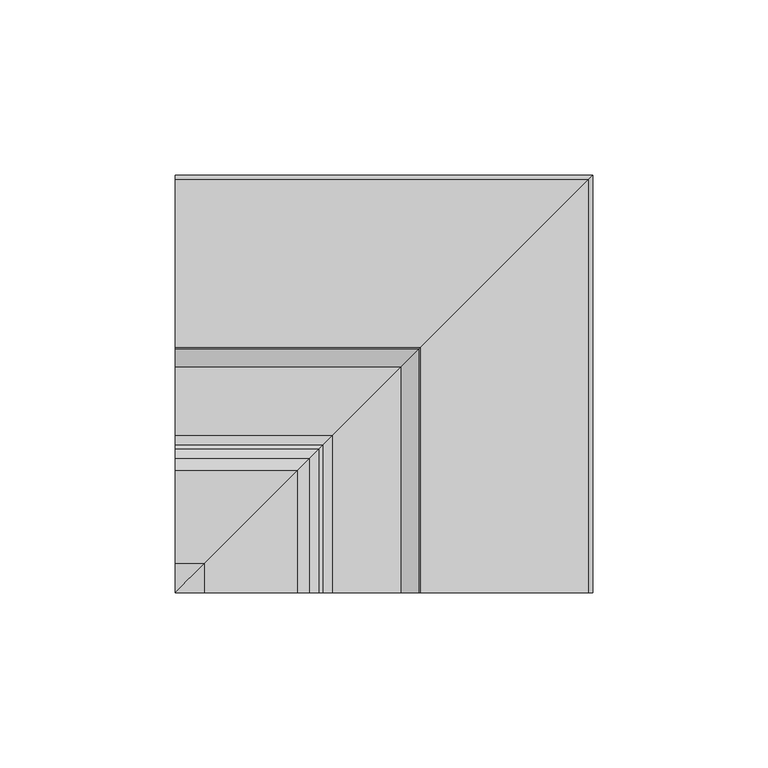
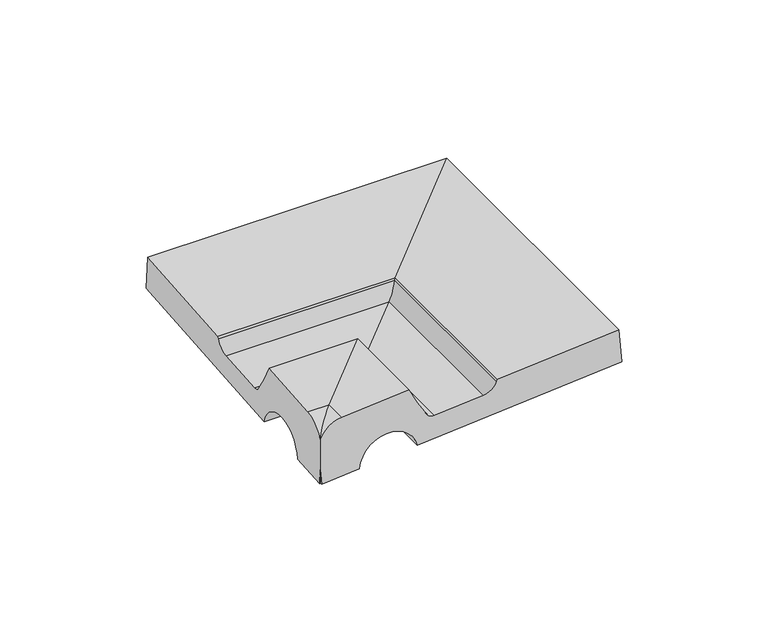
"""IFC4 building model written with IfcOpenShell, lengths in millimetres: proxy geometry, ROSA GRES_089 : Pieza 089_Aqua_Plomo_Anti-Slip."""

from ifc_helpers import new_model, si_unit, frame, origin, place, context, project, spatial, polyline, circle_curve, ellipse_curve, source, transform, mapped, element, save
from ifc_brep_helpers import plane_surface, cylinder_surface, revolved_surface, advanced_brep


def generic_models_ccc31185(model_context):
    return source(origin(), model_context, "Body", "AdvancedBrep", [
        advanced_brep(
        [(0.4959854, 0.4959854, 174.3946403), (15.4742511, 15.4742511, 175.6138015), (15.4742511, 0.0, 175.6138015), (0.4959854, 0.0, 174.3946403), (38.2820268, 38.2820268, 177.4702483), (38.2820268, 0.0, 177.4702483), (119.1037338, 119.1037338, 184.0487594), (119.1037338, 0.0, 184.0487594), (117.9849268, 117.9849268, 197.7941027), (117.9849268, 0.0, 197.7941027), (69.9836117, 69.9836117, 193.8870189), (69.9836117, 0.0, 193.8870189), (69.5852402, 69.5852402, 193.1051707), (69.5852402, 0.0, 193.1051707), (64.4101321, 64.4101321, 189.205447), (64.4101321, 0.0, 189.205447), (44.9243788, 44.9243788, 187.6193973), (44.9243788, 0.0, 187.6193973), (42.1786827, 42.1786827, 188.9557911), (42.1786827, 0.0, 188.9557911), (41.0138307, 41.0138307, 190.7196924), (41.0138307, 0.0, 190.7196924), (38.3959439, 38.3959439, 195.0159662), (38.3959439, 0.0, 195.0159662), (34.9297931, 34.9297931, 201.7687131), (34.9297931, 0.0, 201.7687131), (8.4761969, 8.4761969, 199.6155199), (8.4761969, 0.0, 199.6155199), (0.0, 0.0, 193.3556365), (0.0, 0.0, 180.4881752), (0.0, 0.4959854, 174.3946403), (0.0, 15.4742511, 175.6138015), (0.0, 38.2820268, 177.4702483), (0.0, 119.1037338, 184.0487594), (0.0, 117.9849268, 197.7941027), (0.0, 69.9836117, 193.8870189), (0.0, 69.5852402, 193.1051707), (0.0, 64.4101321, 189.205447), (0.0, 44.9243788, 187.6193973), (0.0, 42.1786827, 188.9557911), (0.0, 41.0138307, 190.7196924), (0.0, 38.3959439, 195.0159662), (0.0, 34.9297931, 201.7687131), (0.0, 8.4761969, 199.6155199)],
        [
            (0, 1),
            (1, 2),
            (2, 3),
            (3, 0),
            (1, 4, ellipse_curve(frame((27.0041663, 27.0041663, 174.9936892), z_axis=(-0.7071067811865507, 0.7071067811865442, 0.0), x_axis=(0.7071067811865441, 0.7071067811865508, 0.0)), 16.3293284, 11.5465789)),
            (4, 5),
            (5, 2, circle_curve(frame((27.0041663, 0.0, 174.9936892), z_axis=(0.0, -1.0, 0.0), x_axis=(-1.0, 0.0, 0.0)), 11.5465789)),
            (4, 6),
            (6, 7),
            (7, 5),
            (6, 8),
            (8, 9),
            (9, 7),
            (8, 10),
            (10, 11),
            (11, 9),
            (10, 12),
            (12, 13),
            (13, 11),
            (12, 14, ellipse_curve(frame((63.9188624, 63.9188624, 195.2410459), z_axis=(-0.7071067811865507, 0.7071067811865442, 0.0), x_axis=(0.7071067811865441, 0.7071067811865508, 0.0)), 8.5638543, 6.0555595)),
            (14, 15),
            (15, 13, circle_curve(frame((63.9188624, 0.0, 195.2410459), z_axis=(0.0, -1.0, 0.0), x_axis=(-1.0, 0.0, 0.0)), 6.0555595)),
            (14, 16),
            (16, 17),
            (17, 15),
            (16, 18, ellipse_curve(frame((44.6810926, 44.6810926, 190.6083422), z_axis=(-0.7071067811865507, 0.7071067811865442, 0.0), x_axis=(0.7071067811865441, 0.7071067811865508, 0.0)), 4.2409858, 2.9988298)),
            (18, 19),
            (19, 17, circle_curve(frame((44.6810926, 0.0, 190.6083422), z_axis=(0.0, -1.0, 0.0), x_axis=(-1.0, 0.0, 0.0)), 2.9988298)),
            (18, 20),
            (20, 21),
            (21, 19),
            (20, 22),
            (22, 23),
            (23, 21),
            (22, 24),
            (24, 25),
            (25, 23),
            (24, 26),
            (26, 27),
            (27, 25),
            (26, 28, ellipse_curve(frame((9.287465, 9.287465, 189.648482), z_axis=(0.7071067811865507, -0.7071067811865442, 0.0), x_axis=(-0.7071067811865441, -0.7071067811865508, 0.0)), 14.1421356, 10.0)),
            (28, 27, circle_curve(frame((9.287465, 0.0, 189.648482), z_axis=(0.0, 1.0, 0.0), x_axis=(-1.0, 0.0, 0.0)), 10.0)),
            (3, 29),
            (29, 0),
            (0, 30),
            (30, 31),
            (31, 1),
            (31, 32, circle_curve(frame((0.0, 27.0041663, 174.9936892), z_axis=(-1.0, 0.0, 0.0), x_axis=(0.0, -1.0, 0.0)), 11.5465789)),
            (32, 4),
            (32, 33),
            (33, 6),
            (33, 34),
            (34, 8),
            (34, 35),
            (35, 10),
            (35, 36),
            (36, 12),
            (36, 37, circle_curve(frame((0.0, 63.9188624, 195.2410459), z_axis=(-1.0, 0.0, 0.0), x_axis=(0.0, -1.0, 0.0)), 6.0555595)),
            (37, 14),
            (37, 38),
            (38, 16),
            (38, 39, circle_curve(frame((0.0, 44.6810926, 190.6083422), z_axis=(-1.0, 0.0, 0.0), x_axis=(0.0, -1.0, 0.0)), 2.9988298)),
            (39, 18),
            (39, 40),
            (40, 20),
            (40, 41),
            (41, 22),
            (41, 42),
            (42, 24),
            (42, 43),
            (43, 26),
            (43, 28, circle_curve(frame((0.0, 9.287465, 189.648482), z_axis=(1.0, 0.0, 0.0), x_axis=(0.0, -1.0, 0.0)), 10.0)),
            (29, 30),
            (29, 28),
        ],
        [
            plane_surface(frame((0.4959854, -5.0, 174.3946403), z_axis=(0.08112705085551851, 0.0, -0.9967037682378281), x_axis=(0.0, 1.0, 0.0))),
            revolved_surface(polyline([(15.457587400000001, 38.55074514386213, 174.9936892), (15.457587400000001, 0.0, 174.9936892)]), (27.0041663, -5.0, 174.9936892), (0.0, 1.0, 0.0)),
            plane_surface(frame((38.2820268, -5.0, 177.4702483), z_axis=(0.08112705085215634, 0.0, -0.9967037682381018), x_axis=(0.0, 1.0, 0.0))),
            plane_surface(frame((119.1037338, -5.0, 184.0487594), z_axis=(0.9967037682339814, 0.0, 0.08112705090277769), x_axis=(0.0, 1.0, 0.0))),
            plane_surface(frame((117.9849268, -5.0, 197.7941027), z_axis=(-0.08112705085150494, 0.0, 0.9967037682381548), x_axis=(0.0, 1.0, 0.0))),
            plane_surface(frame((69.9836117, -5.0, 193.8870189), z_axis=(-0.8910065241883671, 0.0, 0.4539904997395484), x_axis=(0.0, 1.0, 0.0))),
            revolved_surface(polyline([(57.8633029, 69.97442184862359, 195.2410459), (57.8633029, 0.0, 195.2410459)]), (63.9188624, -5.0, 195.2410459), (0.0, 1.0, 0.0)),
            plane_surface(frame((64.4101321, -5.0, 189.205447), z_axis=(-0.08112705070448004, 0.0, 0.996703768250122), x_axis=(0.0, 1.0, 0.0))),
            revolved_surface(polyline([(41.6822628, 47.67992241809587, 190.6083422), (41.6822628, 0.0, 190.6083422)]), (44.6810926, -5.0, 190.6083422), (0.0, 1.0, 0.0)),
            plane_surface(frame((42.1786827, -5.0, 188.9557911), z_axis=(0.8344621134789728, 0.0, 0.5510653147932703), x_axis=(0.0, 1.0, 0.0))),
            plane_surface(frame((41.0138307, -5.0, 190.7196924), z_axis=(0.8539544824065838, 0.0, 0.5203477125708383), x_axis=(0.0, 1.0, 0.0))),
            plane_surface(frame((38.3959439, -5.0, 195.0159662), z_axis=(0.8896460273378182, 0.0, 0.45665079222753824), x_axis=(0.0, 1.0, 0.0))),
            plane_surface(frame((34.9297931, -5.0, 201.7687131), z_axis=(-0.08112680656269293, 0.0, 0.9967037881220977), x_axis=(0.0, 1.0, 0.0))),
            cylinder_surface(frame((9.287465, -5.0, 189.648482), z_axis=(0.0, -1.0, 0.0), x_axis=(-1.0, 0.0, 0.0)), 10.0),
            plane_surface(frame((-0.6795727, -5.0, 188.8372115), z_axis=(-0.9967037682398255, 0.0, -0.08112705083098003), x_axis=(0.0, 1.0, 0.0))),
            plane_surface(frame((0.4959854, 0.4959854, 174.3946403), z_axis=(0.0, 0.08112705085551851, -0.9967037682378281), x_axis=(-1.0, 0.0, 0.0))),
            revolved_surface(polyline([(0.0, 15.457587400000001, 174.9936892), (38.550745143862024, 15.457587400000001, 174.9936892)]), (0.0, 27.0041663, 174.9936892), (-1.0, 0.0, 0.0)),
            plane_surface(frame((38.2820268, 38.2820268, 177.4702483), z_axis=(0.0, 0.08112705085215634, -0.9967037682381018), x_axis=(-1.0, 0.0, 0.0))),
            plane_surface(frame((119.1037338, 119.1037338, 184.0487594), z_axis=(0.0, 0.9967037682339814, 0.08112705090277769), x_axis=(-1.0, 0.0, 0.0))),
            plane_surface(frame((117.9849268, 117.9849268, 197.7941027), z_axis=(0.0, -0.08112705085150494, 0.9967037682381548), x_axis=(-1.0, 0.0, 0.0))),
            plane_surface(frame((69.9836117, 69.9836117, 193.8870189), z_axis=(0.0, -0.8910065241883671, 0.4539904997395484), x_axis=(-1.0, 0.0, 0.0))),
            revolved_surface(polyline([(0.0, 57.8633029, 195.2410459), (69.97442184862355, 57.8633029, 195.2410459)]), (0.0, 63.9188624, 195.2410459), (-1.0, 0.0, 0.0)),
            plane_surface(frame((64.4101321, 64.4101321, 189.205447), z_axis=(0.0, -0.08112705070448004, 0.996703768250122), x_axis=(-1.0, 0.0, 0.0))),
            revolved_surface(polyline([(0.0, 41.6822628, 190.6083422), (47.67992241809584, 41.6822628, 190.6083422)]), (0.0, 44.6810926, 190.6083422), (-1.0, 0.0, 0.0)),
            plane_surface(frame((42.1786827, 42.1786827, 188.9557911), z_axis=(0.0, 0.8344621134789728, 0.5510653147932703), x_axis=(-1.0, 0.0, 0.0))),
            plane_surface(frame((41.0138307, 41.0138307, 190.7196924), z_axis=(0.0, 0.8539544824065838, 0.5203477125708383), x_axis=(-1.0, 0.0, 0.0))),
            plane_surface(frame((38.3959439, 38.3959439, 195.0159662), z_axis=(0.0, 0.8896460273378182, 0.45665079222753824), x_axis=(-1.0, 0.0, 0.0))),
            plane_surface(frame((34.9297931, 34.9297931, 201.7687131), z_axis=(0.0, -0.08112680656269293, 0.9967037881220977), x_axis=(-1.0, 0.0, 0.0))),
            cylinder_surface(frame((0.0, 9.287465, 189.648482), z_axis=(1.0, 0.0, 0.0), x_axis=(0.0, -1.0, 0.0)), 10.0),
            plane_surface(frame((-0.6795727, -0.6795727, 188.8372115), z_axis=(0.0, -0.9967037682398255, -0.08112705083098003), x_axis=(-1.0, 0.0, 0.0))),
            plane_surface(frame((0.0, 0.0, 206.3376696), z_axis=(-1.0, 0.0, 0.0), x_axis=(0.0, 0.0, -1.0))),
            plane_surface(frame((125.0, 0.0, 206.3376696), z_axis=(0.0, -1.0, 0.0), x_axis=(0.0, 0.0, -1.0))),
        ],
        [
            (0, [[1, 2, 3, 4]]),
            (1, [[5, 6, 7, -2]]),
            (2, [[8, 9, 10, -6]]),
            (3, [[11, 12, 13, -9]]),
            (4, [[14, 15, 16, -12]]),
            (5, [[17, 18, 19, -15]]),
            (6, [[20, 21, 22, -18]]),
            (7, [[23, 24, 25, -21]]),
            (8, [[26, 27, 28, -24]]),
            (9, [[29, 30, 31, -27]]),
            (10, [[32, 33, 34, -30]]),
            (11, [[35, 36, 37, -33]]),
            (12, [[38, 39, 40, -36]]),
            (13, [[-39, 41, 42]]),
            (14, [[-4, 43, 44]]),
            (15, [[-1, 45, 46, 47]]),
            (16, [[-5, -47, 48, 49]]),
            (17, [[-8, -49, 50, 51]]),
            (18, [[-11, -51, 52, 53]]),
            (19, [[-14, -53, 54, 55]]),
            (20, [[-17, -55, 56, 57]]),
            (21, [[-20, -57, 58, 59]]),
            (22, [[-23, -59, 60, 61]]),
            (23, [[-26, -61, 62, 63]]),
            (24, [[-29, -63, 64, 65]]),
            (25, [[-32, -65, 66, 67]]),
            (26, [[-35, -67, 68, 69]]),
            (27, [[-38, -69, 70, 71]]),
            (28, [[-41, -71, 72]]),
            (29, [[-44, 73, -45]]),
            (30, [[74, -72, -70, -68, -66, -64, -62, -60, -58, -56, -54, -52, -50, -48, -46, -73]]),
            (31, [[-74, -43, -3, -7, -10, -13, -16, -19, -22, -25, -28, -31, -34, -37, -40, -42]]),
        ],
    ),
    ])


if __name__ == "__main__":
    model = new_model("IFC4")
    model_context = context("Model", 3, world=origin())
    ifc_project = project(units=[si_unit("LENGTHUNIT", "METRE", prefix="MILLI")], contexts=[model_context])
    site = spatial("IfcSite", under=ifc_project)
    building = spatial("IfcBuilding", under=site)
    placement = place(None, origin())
    generic_models_shape = generic_models_ccc31185(model_context)
    element("IfcBuildingElementProxy", 1, Name="ROSA GRES_089 : Pieza 089_Aqua_Plomo_Anti-Slip", ObjectType="ROSA GRES_089 : Pieza 089_Aqua_Plomo_Anti-Slip", at=placement, inside=building, context=model_context, shape_type="MappedRepresentation", body=[
        mapped(generic_models_shape, transform((0.0, 0.0, 0.0), x_axis=(1.0, 0.0, 0.0), y_axis=(0.0, 1.0, 0.0), z_axis=(0.0, 0.0, 1.0))),
    ])
    save(model, "model.ifc")
